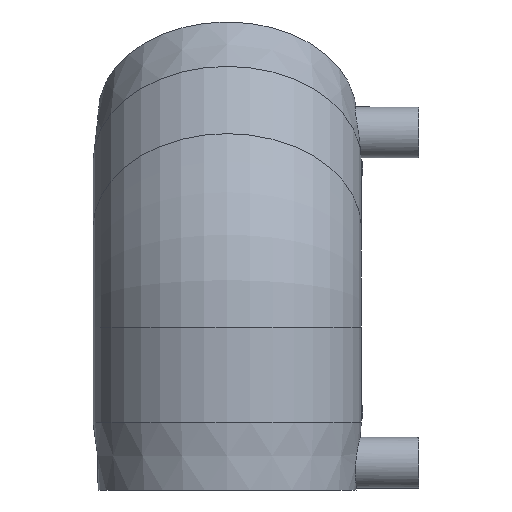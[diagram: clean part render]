
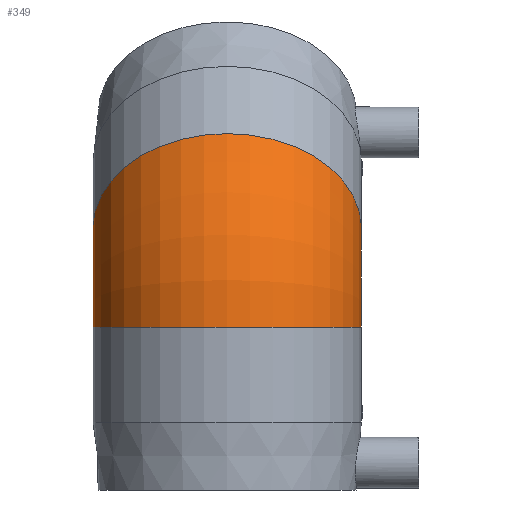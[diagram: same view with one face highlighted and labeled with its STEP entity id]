
A CAD part, left-side view. The second image highlights one B-rep face of the part: STEP entity #349.
In plain terms, the highlighted toroidal (fillet/blend) face has major radius 41.042 mm and minor radius 39.5 mm.
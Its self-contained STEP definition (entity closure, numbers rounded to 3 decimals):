
#21=TOROIDAL_SURFACE('',#405,41.042,39.5);
#76=ORIENTED_EDGE('',*,*,#135,.T.);
#77=ORIENTED_EDGE('',*,*,#136,.F.);
#135=EDGE_CURVE('',#170,#170,#198,.F.);
#136=EDGE_CURVE('',#171,#171,#199,.F.);
#170=VERTEX_POINT('',#649);
#171=VERTEX_POINT('',#652);
#198=CIRCLE('',#404,39.5);
#199=CIRCLE('',#406,39.5);
#237=EDGE_LOOP('',(#76));
#238=EDGE_LOOP('',(#77));
#294=FACE_BOUND('',#237,.T.);
#295=FACE_BOUND('',#238,.T.);
#349=ADVANCED_FACE('',(#294,#295),#21,.T.);
#404=AXIS2_PLACEMENT_3D('',#648,#486,#487);
#405=AXIS2_PLACEMENT_3D('',#650,#488,#489);
#406=AXIS2_PLACEMENT_3D('',#651,#490,#491);
#486=DIRECTION('',(0.,0.,-1.));
#487=DIRECTION('',(1.,0.,0.));
#488=DIRECTION('',(0.,1.,0.));
#489=DIRECTION('',(0.,0.,1.));
#490=DIRECTION('',(-0.707,0.,-0.707));
#491=DIRECTION('',(0.707,0.,-0.707));
#648=CARTESIAN_POINT('',(0.,0.,-17.));
#649=CARTESIAN_POINT('',(39.5,0.,-17.));
#650=CARTESIAN_POINT('',(41.042,0.,-17.));
#651=CARTESIAN_POINT('',(12.021,0.,12.021));
#652=CARTESIAN_POINT('',(39.952,0.,-15.91));
